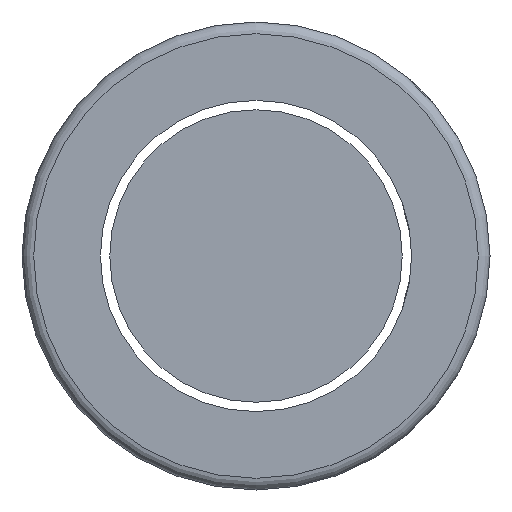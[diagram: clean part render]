
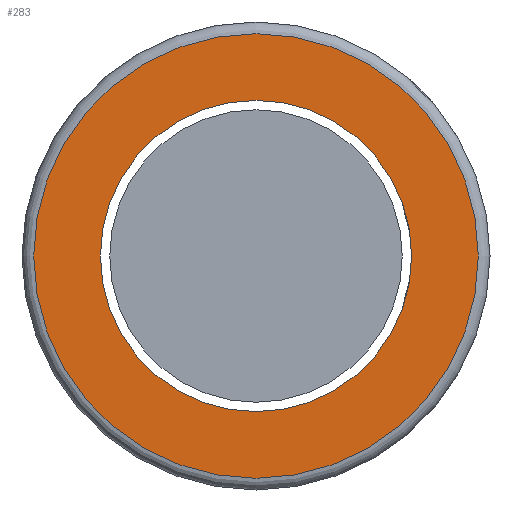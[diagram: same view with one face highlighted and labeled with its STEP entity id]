
A CAD part, left-side view. The second image highlights one B-rep face of the part: STEP entity #283.
In plain terms, the highlighted planar face has unit normal (-1, 0, 0).
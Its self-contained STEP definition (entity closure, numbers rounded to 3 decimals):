
#30 = AXIS2_PLACEMENT_3D ( 'NONE', #187, #441, #572 ) ;
#48 = CIRCLE ( 'NONE', #30, 19. ) ;
#185 = EDGE_CURVE ( 'NONE', #530, #530, #395, .T. ) ;
#187 = CARTESIAN_POINT ( 'NONE',  ( -40., 0., 0. ) ) ;
#194 = CARTESIAN_POINT ( 'NONE',  ( -40., 0., -13.3 ) ) ;
#202 = DIRECTION ( 'NONE',  ( 1., 0., 0. ) ) ;
#221 = DIRECTION ( 'NONE',  ( -1., 0., 0. ) ) ;
#228 = EDGE_LOOP ( 'NONE', ( #333 ) ) ;
#265 = AXIS2_PLACEMENT_3D ( 'NONE', #449, #202, #313 ) ;
#272 = FACE_BOUND ( 'NONE', #228, .T. ) ;
#283 = ADVANCED_FACE ( 'NONE', ( #563, #272 ), #321, .T. ) ;
#313 = DIRECTION ( 'NONE',  ( 0., 0., -1. ) ) ;
#321 = PLANE ( 'NONE',  #594 ) ;
#333 = ORIENTED_EDGE ( 'NONE', *, *, #185, .T. ) ;
#395 = CIRCLE ( 'NONE', #265, 13.3 ) ;
#433 = ORIENTED_EDGE ( 'NONE', *, *, #609, .T. ) ;
#441 = DIRECTION ( 'NONE',  ( -1., 0., 0. ) ) ;
#449 = CARTESIAN_POINT ( 'NONE',  ( -40., 0., 0. ) ) ;
#482 = CARTESIAN_POINT ( 'NONE',  ( -40., 0., 19. ) ) ;
#530 = VERTEX_POINT ( 'NONE', #194 ) ;
#563 = FACE_OUTER_BOUND ( 'NONE', #574, .T. ) ;
#564 = DIRECTION ( 'NONE',  ( 0., 0., 1. ) ) ;
#572 = DIRECTION ( 'NONE',  ( 0., 0., 1. ) ) ;
#574 = EDGE_LOOP ( 'NONE', ( #433 ) ) ;
#594 = AXIS2_PLACEMENT_3D ( 'NONE', #598, #221, #564 ) ;
#598 = CARTESIAN_POINT ( 'NONE',  ( -40., 20., 0. ) ) ;
#609 = EDGE_CURVE ( 'NONE', #621, #621, #48, .T. ) ;
#621 = VERTEX_POINT ( 'NONE', #482 ) ;
